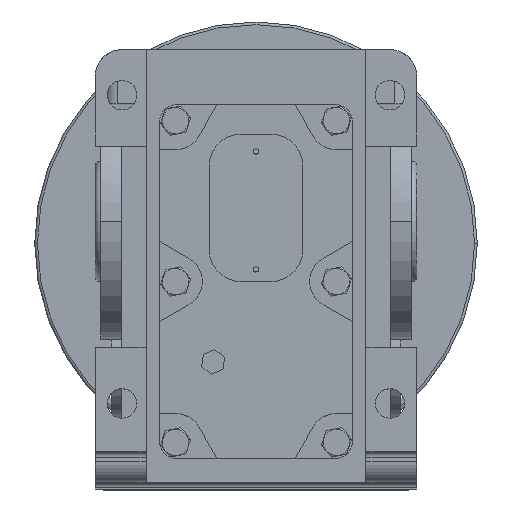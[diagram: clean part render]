
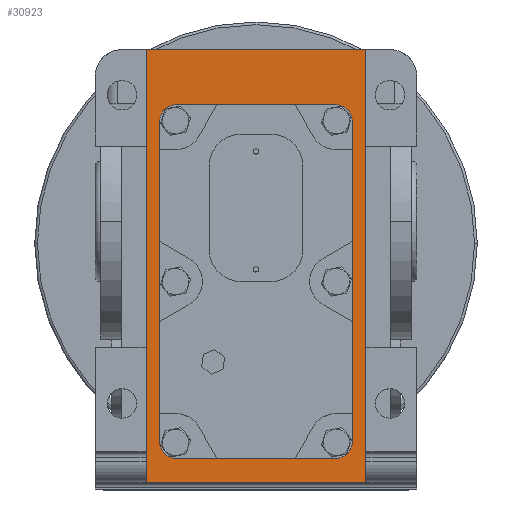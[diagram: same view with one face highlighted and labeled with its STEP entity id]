
A CAD part, top view. The second image highlights one B-rep face of the part: STEP entity #30923.
In plain terms, the highlighted planar face has unit normal (0, 0, 1).
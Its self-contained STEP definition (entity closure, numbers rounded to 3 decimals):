
#3732 = EDGE_CURVE ( 'NONE', #34502, #34606, #9753, .T. ) ;
#3734 = EDGE_CURVE ( 'NONE', #34580, #34502, #9757, .T. ) ;
#3736 = EDGE_CURVE ( 'NONE', #34495, #34580, #9761, .T. ) ;
#3738 = EDGE_CURVE ( 'NONE', #34606, #34495, #9765, .T. ) ;
#3763 = EDGE_CURVE ( 'NONE', #34309, #34338, #9805, .T. ) ;
#3776 = EDGE_CURVE ( 'NONE', #34340, #34329, #9832, .T. ) ;
#3779 = EDGE_CURVE ( 'NONE', #34343, #34302, #9837, .T. ) ;
#3789 = EDGE_CURVE ( 'NONE', #34280, #34305, #9854, .T. ) ;
#3792 = EDGE_CURVE ( 'NONE', #34305, #34343, #9856, .T. ) ;
#3793 = EDGE_CURVE ( 'NONE', #34302, #34309, #9860, .T. ) ;
#3794 = EDGE_CURVE ( 'NONE', #34338, #34340, #9862, .T. ) ;
#3795 = EDGE_CURVE ( 'NONE', #34329, #34280, #9864, .T. ) ;
#9753 = LINE ( 'NONE', #13904, #9756 ) ;
#9756 = VECTOR ( 'NONE', #13906, 1000. ) ;
#9757 = LINE ( 'NONE', #13908, #9760 ) ;
#9760 = VECTOR ( 'NONE', #13909, 1000. ) ;
#9761 = LINE ( 'NONE', #13912, #9764 ) ;
#9764 = VECTOR ( 'NONE', #13913, 1000. ) ;
#9765 = LINE ( 'NONE', #13916, #9768 ) ;
#9768 = VECTOR ( 'NONE', #13917, 1000. ) ;
#9805 = CIRCLE ( 'NONE', #11224, 6.5 ) ;
#9832 = CIRCLE ( 'NONE', #11228, 6.5 ) ;
#9837 = CIRCLE ( 'NONE', #11229, 6.5 ) ;
#9854 = CIRCLE ( 'NONE', #11233, 6.5 ) ;
#9856 = LINE ( 'NONE', #14032, #9861 ) ;
#9860 = LINE ( 'NONE', #14041, #9863 ) ;
#9861 = VECTOR ( 'NONE', #14040, 1000. ) ;
#9862 = LINE ( 'NONE', #14043, #9865 ) ;
#9863 = VECTOR ( 'NONE', #14042, 1000. ) ;
#9864 = LINE ( 'NONE', #14045, #9867 ) ;
#9865 = VECTOR ( 'NONE', #14044, 1000. ) ;
#9867 = VECTOR ( 'NONE', #14046, 1000. ) ;
#11224 = AXIS2_PLACEMENT_3D ( 'NONE', #13972, #13973, #13974 ) ;
#11228 = AXIS2_PLACEMENT_3D ( 'NONE', #14003, #14004, #14005 ) ;
#11229 = AXIS2_PLACEMENT_3D ( 'NONE', #14008, #14009, #14010 ) ;
#11233 = AXIS2_PLACEMENT_3D ( 'NONE', #14034, #14035, #14036 ) ;
#11769 = AXIS2_PLACEMENT_3D ( 'NONE', #21308, #21319, #21320 ) ;
#13904 = CARTESIAN_POINT ( 'NONE',  ( -54.073, 88.767, 89. ) ) ;
#13906 = DIRECTION ( 'NONE',  ( 0., -1., 0. ) ) ;
#13908 = CARTESIAN_POINT ( 'NONE',  ( 27.927, 88.767, 89. ) ) ;
#13909 = DIRECTION ( 'NONE',  ( -1., 0., 0. ) ) ;
#13912 = CARTESIAN_POINT ( 'NONE',  ( 27.927, -72.733, 89. ) ) ;
#13913 = DIRECTION ( 'NONE',  ( 0., 1., 0. ) ) ;
#13916 = CARTESIAN_POINT ( 'NONE',  ( -54.073, -72.733, 89. ) ) ;
#13917 = DIRECTION ( 'NONE',  ( 1., 0., 0. ) ) ;
#13972 = CARTESIAN_POINT ( 'NONE',  ( -42.576, 61.767, 89. ) ) ;
#13973 = DIRECTION ( 'NONE',  ( 0., 0., -1. ) ) ;
#13974 = DIRECTION ( 'NONE',  ( -1., 0., 0. ) ) ;
#14003 = CARTESIAN_POINT ( 'NONE',  ( 16.431, 61.767, 89. ) ) ;
#14004 = DIRECTION ( 'NONE',  ( 0., 0., -1. ) ) ;
#14005 = DIRECTION ( 'NONE',  ( -1., 0., 0. ) ) ;
#14008 = CARTESIAN_POINT ( 'NONE',  ( -42.573, -57.233, 89. ) ) ;
#14009 = DIRECTION ( 'NONE',  ( 0., 0., -1. ) ) ;
#14010 = DIRECTION ( 'NONE',  ( -1., 0., 0. ) ) ;
#14032 = CARTESIAN_POINT ( 'NONE',  ( -130.166, -63.733, 89. ) ) ;
#14034 = CARTESIAN_POINT ( 'NONE',  ( 16.427, -57.233, 89. ) ) ;
#14035 = DIRECTION ( 'NONE',  ( 0., 0., -1. ) ) ;
#14036 = DIRECTION ( 'NONE',  ( -1., 0., 0. ) ) ;
#14040 = DIRECTION ( 'NONE',  ( -1., 0., 0. ) ) ;
#14041 = CARTESIAN_POINT ( 'NONE',  ( -49.073, 2.267, 89. ) ) ;
#14042 = DIRECTION ( 'NONE',  ( 0., 1., 0. ) ) ;
#14043 = CARTESIAN_POINT ( 'NONE',  ( -130.166, 68.267, 89. ) ) ;
#14044 = DIRECTION ( 'NONE',  ( 1., 0., 0. ) ) ;
#14045 = CARTESIAN_POINT ( 'NONE',  ( 22.927, 2.267, 89. ) ) ;
#14046 = DIRECTION ( 'NONE',  ( 0., -1., 0. ) ) ;
#21308 = CARTESIAN_POINT ( 'NONE',  ( 27.927, -72.733, 89. ) ) ;
#21317 = PLANE ( 'NONE',  #11769 ) ;
#21319 = DIRECTION ( 'NONE',  ( 0., 0., 1. ) ) ;
#21320 = DIRECTION ( 'NONE',  ( 1., 0., 0. ) ) ;
#21647 = FACE_OUTER_BOUND ( 'NONE', #34450, .T. ) ;
#21648 = FACE_BOUND ( 'NONE', #34457, .T. ) ;
#28879 = CARTESIAN_POINT ( 'NONE',  ( 22.927, -57.233, 89. ) ) ;
#28891 = CARTESIAN_POINT ( 'NONE',  ( -49.073, -57.233, 89. ) ) ;
#28892 = CARTESIAN_POINT ( 'NONE',  ( 16.427, -63.733, 89. ) ) ;
#28894 = CARTESIAN_POINT ( 'NONE',  ( -49.073, 61.967, 89. ) ) ;
#28901 = CARTESIAN_POINT ( 'NONE',  ( 22.927, 61.967, 89. ) ) ;
#28905 = CARTESIAN_POINT ( 'NONE',  ( -42.576, 68.267, 89. ) ) ;
#28906 = CARTESIAN_POINT ( 'NONE',  ( 16.431, 68.267, 89. ) ) ;
#28907 = CARTESIAN_POINT ( 'NONE',  ( -42.573, -63.733, 89. ) ) ;
#28915 = CARTESIAN_POINT ( 'NONE',  ( 27.927, -72.733, 89. ) ) ;
#28922 = CARTESIAN_POINT ( 'NONE',  ( -54.073, 88.767, 89. ) ) ;
#29000 = CARTESIAN_POINT ( 'NONE',  ( 27.927, 88.767, 89. ) ) ;
#29026 = CARTESIAN_POINT ( 'NONE',  ( -54.073, -72.733, 89. ) ) ;
#30923 = ADVANCED_FACE ( 'NONE', ( #21647, #21648 ), #21317, .T. ) ;
#31506 = ORIENTED_EDGE ( 'NONE', *, *, #3793, .T. ) ;
#31755 = ORIENTED_EDGE ( 'NONE', *, *, #3734, .T. ) ;
#31767 = ORIENTED_EDGE ( 'NONE', *, *, #3779, .T. ) ;
#32050 = ORIENTED_EDGE ( 'NONE', *, *, #3789, .T. ) ;
#32061 = ORIENTED_EDGE ( 'NONE', *, *, #3732, .T. ) ;
#32266 = ORIENTED_EDGE ( 'NONE', *, *, #3776, .T. ) ;
#32269 = ORIENTED_EDGE ( 'NONE', *, *, #3795, .T. ) ;
#32350 = ORIENTED_EDGE ( 'NONE', *, *, #3738, .T. ) ;
#32408 = ORIENTED_EDGE ( 'NONE', *, *, #3794, .T. ) ;
#32436 = ORIENTED_EDGE ( 'NONE', *, *, #3763, .T. ) ;
#32462 = ORIENTED_EDGE ( 'NONE', *, *, #3792, .T. ) ;
#32466 = ORIENTED_EDGE ( 'NONE', *, *, #3736, .T. ) ;
#34280 = VERTEX_POINT ( 'NONE', #28879 ) ;
#34302 = VERTEX_POINT ( 'NONE', #28891 ) ;
#34305 = VERTEX_POINT ( 'NONE', #28892 ) ;
#34309 = VERTEX_POINT ( 'NONE', #28894 ) ;
#34329 = VERTEX_POINT ( 'NONE', #28901 ) ;
#34338 = VERTEX_POINT ( 'NONE', #28905 ) ;
#34340 = VERTEX_POINT ( 'NONE', #28906 ) ;
#34343 = VERTEX_POINT ( 'NONE', #28907 ) ;
#34450 = EDGE_LOOP ( 'NONE', ( #32350, #32466, #31755, #32061 ) ) ;
#34457 = EDGE_LOOP ( 'NONE', ( #32462, #31767, #31506, #32436, #32408, #32266, #32269, #32050 ) ) ;
#34495 = VERTEX_POINT ( 'NONE', #28915 ) ;
#34502 = VERTEX_POINT ( 'NONE', #28922 ) ;
#34580 = VERTEX_POINT ( 'NONE', #29000 ) ;
#34606 = VERTEX_POINT ( 'NONE', #29026 ) ;
